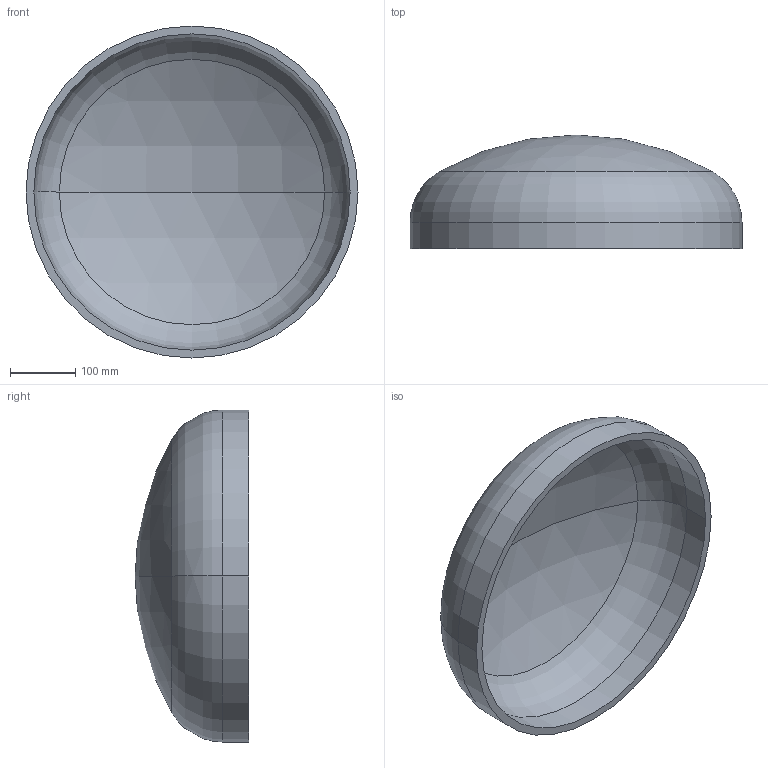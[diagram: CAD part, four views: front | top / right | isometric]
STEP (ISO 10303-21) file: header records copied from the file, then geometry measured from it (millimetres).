
FILE_DESCRIPTION (( 'STEP AP203' ), '1' );
FILE_NAME ('DIN 28013 Korbbogenform_-_Boden DIN 28013 - 508 x 40 - I - s=12.step', '2016-07-01T07:52:25', ( '' ), ( '' ), 'SwSTEP 2.0', 'SolidWorks 2013', '' );
FILE_SCHEMA (( 'CONFIG_CONTROL_DESIGN' ));
Length unit declared in the file: millimetre
Products named in the file (1): DIN 28013 Korbbogenform_-_Boden DIN 28013 - 508 x 40 - I - s=12
Bounding box: 508 x 173.94 x 508 mm (x, y, z)
Volume: 4011957 mm3; surface area: 687659.6 mm2
Topology: 1 solids, 1 shells, 13 faces, 24 edges, 14 vertices
Faces by surface type: torus 4, cylinder 4, sphere 4, plane 1
Entity records: 407 total; most frequent: DIRECTION 72, CARTESIAN_POINT 52, ORIENTED_EDGE 48, AXIS2_PLACEMENT_3D 34, EDGE_CURVE 24, CIRCLE 20, EDGE_LOOP 14, VERTEX_POINT 14
